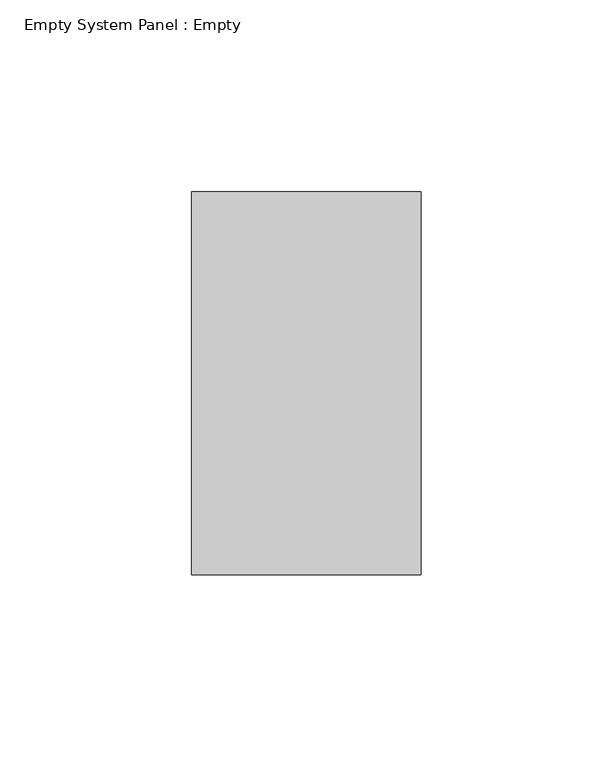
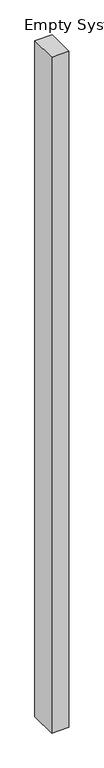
"""IFC4 building model written with IfcOpenShell, lengths in millimetres: plate geometry, Empty System Panel : Empty."""

from ifc_helpers import new_model, si_unit, origin, origin_with_axes, place, context, project, spatial, polyline, outline, extrude, source, transform, mapped, element, save


def empty_system_panel_empty_5508d8ad(model_context):
    return source(origin(), model_context, "Body", "SweptSolid", [
        extrude(outline(polyline([(30.0, -150.0), (-30.0, -150.0), (-30.0, -50.0), (30.0, -50.0), (30.0, -150.0)])), origin_with_axes(), (0.0, 0.0, 1.0), 2475.0),
    ])


if __name__ == "__main__":
    model = new_model("IFC4")
    model_context = context("Model", 3, world=origin())
    ifc_project = project(units=[si_unit("LENGTHUNIT", "METRE", prefix="MILLI")], contexts=[model_context])
    site = spatial("IfcSite", under=ifc_project)
    building = spatial("IfcBuilding", under=site)
    placement = place(None, origin())
    empty_system_panel_empty_shape = empty_system_panel_empty_5508d8ad(model_context)
    element("IfcPlate", 1, ObjectType="Empty System Panel : Empty", at=placement, inside=building, context=model_context, shape_type="MappedRepresentation", body=[
        mapped(empty_system_panel_empty_shape, transform((0.0, 0.0, 0.0), x_axis=(1.0, 0.0, 0.0), y_axis=(0.0, 1.0, 0.0), z_axis=(0.0, 0.0, 1.0))),
    ])
    save(model, "model.ifc")
